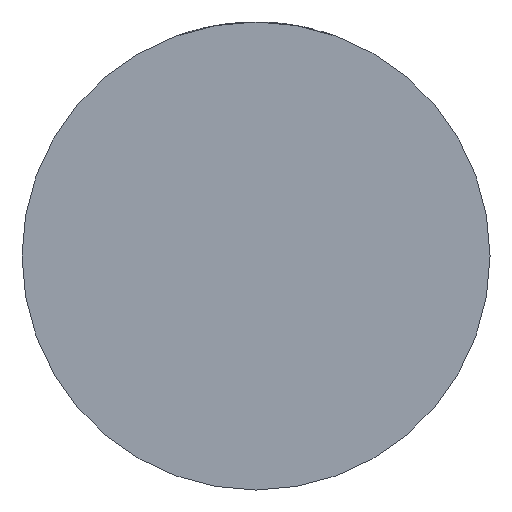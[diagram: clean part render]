
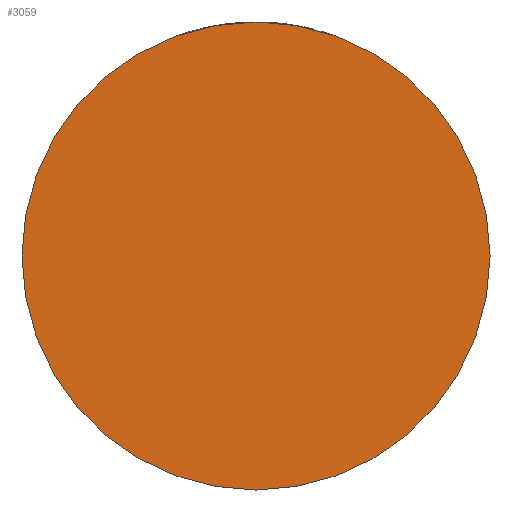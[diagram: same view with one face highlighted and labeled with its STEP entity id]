
A CAD part, front view. The second image highlights one B-rep face of the part: STEP entity #3059.
In plain terms, the highlighted planar face has unit normal (0, -1, 0).
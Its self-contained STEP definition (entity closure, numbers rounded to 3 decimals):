
#258 = CARTESIAN_POINT ( 'NONE',  ( 0., -25., 0. ) ) ;
#565 = ORIENTED_EDGE ( 'NONE', *, *, #2340, .T. ) ;
#601 = CIRCLE ( 'NONE', #2435, 29.5 ) ;
#698 = DIRECTION ( 'NONE',  ( 1., 0., 0. ) ) ;
#759 = CARTESIAN_POINT ( 'NONE',  ( 29.5, -25., 0. ) ) ;
#932 = ORIENTED_EDGE ( 'NONE', *, *, #2695, .T. ) ;
#988 = FACE_OUTER_BOUND ( 'NONE', #1933, .T. ) ;
#1007 = DIRECTION ( 'NONE',  ( 0., -1., 0. ) ) ;
#1028 = AXIS2_PLACEMENT_3D ( 'NONE', #258, #3290, #4327 ) ;
#1092 = AXIS2_PLACEMENT_3D ( 'NONE', #3992, #3367, #2016 ) ;
#1933 = EDGE_LOOP ( 'NONE', ( #932, #565 ) ) ;
#2016 = DIRECTION ( 'NONE',  ( 1., 0., 0. ) ) ;
#2066 = CARTESIAN_POINT ( 'NONE',  ( 0., -25., 0. ) ) ;
#2340 = EDGE_CURVE ( 'NONE', #2776, #2583, #3999, .T. ) ;
#2435 = AXIS2_PLACEMENT_3D ( 'NONE', #2066, #1007, #698 ) ;
#2583 = VERTEX_POINT ( 'NONE', #3518 ) ;
#2695 = EDGE_CURVE ( 'NONE', #2583, #2776, #601, .T. ) ;
#2776 = VERTEX_POINT ( 'NONE', #759 ) ;
#2937 = PLANE ( 'NONE',  #1028 ) ;
#3059 = ADVANCED_FACE ( 'NONE', ( #988 ), #2937, .T. ) ;
#3290 = DIRECTION ( 'NONE',  ( 0., -1., 0. ) ) ;
#3367 = DIRECTION ( 'NONE',  ( 0., -1., 0. ) ) ;
#3518 = CARTESIAN_POINT ( 'NONE',  ( -29.5, -25., 0. ) ) ;
#3992 = CARTESIAN_POINT ( 'NONE',  ( 0., -25., 0. ) ) ;
#3999 = CIRCLE ( 'NONE', #1092, 29.5 ) ;
#4327 = DIRECTION ( 'NONE',  ( 1., 0., 0. ) ) ;
